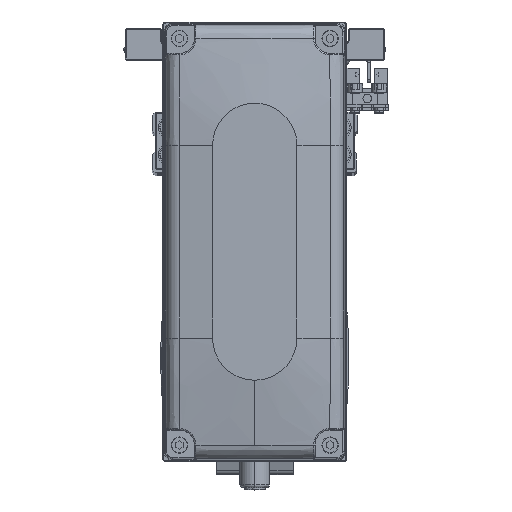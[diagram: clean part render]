
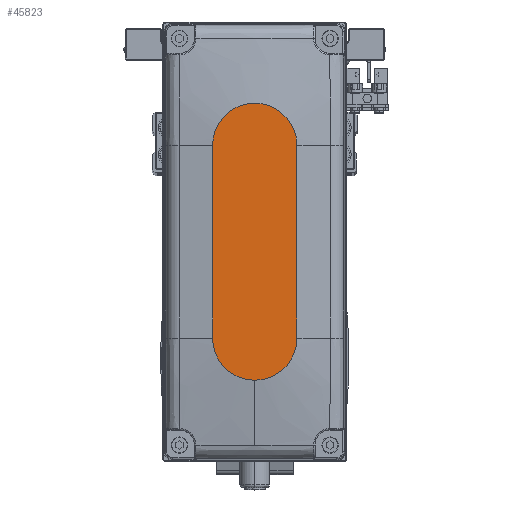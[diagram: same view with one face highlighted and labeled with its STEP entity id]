
A CAD part, top view. The second image highlights one B-rep face of the part: STEP entity #45823.
In plain terms, the highlighted planar face has unit normal (0, 0, 1).
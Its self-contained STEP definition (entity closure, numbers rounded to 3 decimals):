
#71 = AXIS2_PLACEMENT_3D ( 'NONE', #12459, #26660, #40902 ) ;
#375 = VERTEX_POINT ( 'NONE', #20208 ) ;
#2080 = AXIS2_PLACEMENT_3D ( 'NONE', #45783, #13853, #28036 ) ;
#3223 = DIRECTION ( 'NONE',  ( 0., 0., 1. ) ) ;
#3410 = VECTOR ( 'NONE', #17908, 1000. ) ;
#3676 = CARTESIAN_POINT ( 'NONE',  ( -32., 14., 35. ) ) ;
#6166 = AXIS2_PLACEMENT_3D ( 'NONE', #35198, #3223, #17462 ) ;
#8186 = CARTESIAN_POINT ( 'NONE',  ( 46., 0., 35. ) ) ;
#10856 = CARTESIAN_POINT ( 'NONE',  ( 0., 0., 35. ) ) ;
#10911 = VERTEX_POINT ( 'NONE', #40215 ) ;
#12459 = CARTESIAN_POINT ( 'NONE',  ( 32., 0., 35. ) ) ;
#13075 = CARTESIAN_POINT ( 'NONE',  ( -32., -14., 35. ) ) ;
#13853 = DIRECTION ( 'NONE',  ( 0., 0., 1. ) ) ;
#14329 = EDGE_CURVE ( 'NONE', #375, #23479, #35634, .T. ) ;
#16647 = ORIENTED_EDGE ( 'NONE', *, *, #14329, .T. ) ;
#17462 = DIRECTION ( 'NONE',  ( 1., 0., 0. ) ) ;
#17563 = EDGE_CURVE ( 'NONE', #37451, #10911, #45009, .T. ) ;
#17644 = EDGE_CURVE ( 'NONE', #23479, #37451, #26287, .T. ) ;
#17908 = DIRECTION ( 'NONE',  ( -1., 0., 0. ) ) ;
#19167 = EDGE_LOOP ( 'NONE', ( #16647, #28552, #34578, #45465, #27668 ) ) ;
#20200 = CIRCLE ( 'NONE', #71, 14. ) ;
#20208 = CARTESIAN_POINT ( 'NONE',  ( 32., 14., 35. ) ) ;
#21915 = EDGE_CURVE ( 'NONE', #10911, #26508, #20200, .T. ) ;
#23479 = VERTEX_POINT ( 'NONE', #44814 ) ;
#25057 = DIRECTION ( 'NONE',  ( 0., 0., 1. ) ) ;
#25219 = CARTESIAN_POINT ( 'NONE',  ( -32., -14., 35. ) ) ;
#26287 = CIRCLE ( 'NONE', #6166, 14. ) ;
#26508 = VERTEX_POINT ( 'NONE', #8186 ) ;
#26660 = DIRECTION ( 'NONE',  ( 0., 0., 1. ) ) ;
#27271 = DIRECTION ( 'NONE',  ( 1., 0., 0. ) ) ;
#27668 = ORIENTED_EDGE ( 'NONE', *, *, #40136, .T. ) ;
#28036 = DIRECTION ( 'NONE',  ( 1., 0., 0. ) ) ;
#28552 = ORIENTED_EDGE ( 'NONE', *, *, #17644, .T. ) ;
#28555 = FACE_OUTER_BOUND ( 'NONE', #19167, .T. ) ;
#30744 = VECTOR ( 'NONE', #27271, 1000. ) ;
#34578 = ORIENTED_EDGE ( 'NONE', *, *, #17563, .T. ) ;
#35051 = AXIS2_PLACEMENT_3D ( 'NONE', #10856, #25057, #39284 ) ;
#35198 = CARTESIAN_POINT ( 'NONE',  ( -32., 0., 35. ) ) ;
#35634 = LINE ( 'NONE', #3676, #3410 ) ;
#37451 = VERTEX_POINT ( 'NONE', #25219 ) ;
#39284 = DIRECTION ( 'NONE',  ( 1., 0., 0. ) ) ;
#40136 = EDGE_CURVE ( 'NONE', #26508, #375, #42307, .T. ) ;
#40215 = CARTESIAN_POINT ( 'NONE',  ( 32., -14., 35. ) ) ;
#40902 = DIRECTION ( 'NONE',  ( 1., 0., 0. ) ) ;
#42307 = CIRCLE ( 'NONE', #2080, 14. ) ;
#42798 = PLANE ( 'NONE',  #35051 ) ;
#44814 = CARTESIAN_POINT ( 'NONE',  ( -32., 14., 35. ) ) ;
#45009 = LINE ( 'NONE', #13075, #30744 ) ;
#45465 = ORIENTED_EDGE ( 'NONE', *, *, #21915, .T. ) ;
#45783 = CARTESIAN_POINT ( 'NONE',  ( 32., 0., 35. ) ) ;
#45823 = ADVANCED_FACE ( 'NONE', ( #28555 ), #42798, .T. ) ;
